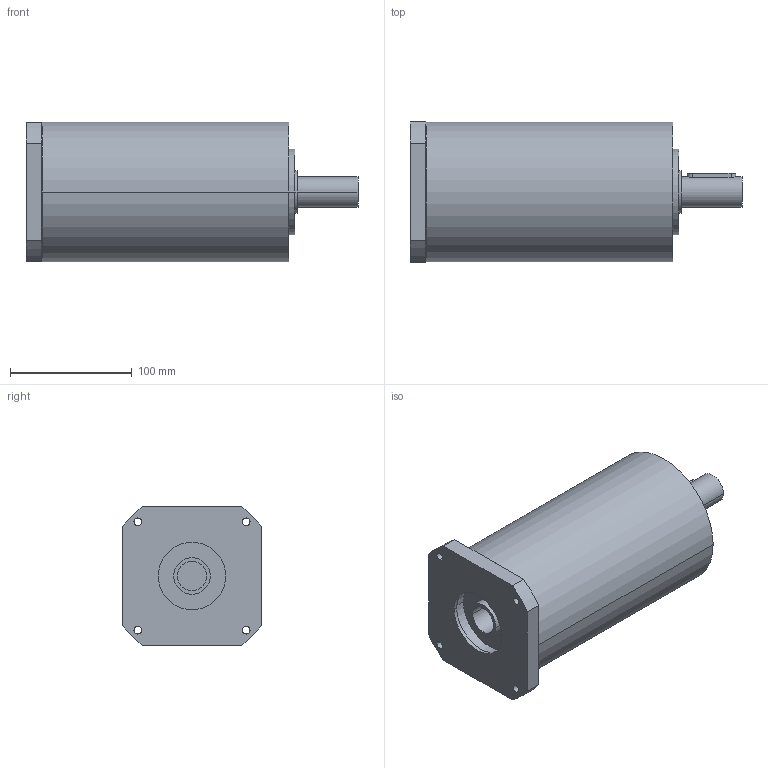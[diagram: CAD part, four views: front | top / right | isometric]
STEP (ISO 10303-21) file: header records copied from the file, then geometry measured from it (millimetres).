
FILE_DESCRIPTION(('CoCreate Modeling STEP Export'),'2;1');
FILE_NAME('GPR125_ig-48-64-80-100-140-196-245-343_25_B14_24_P01.stp','2014-08-26T14:22:23',(''),(''),'CoCreate Modeling STEP processor for AP214 (Solid Model)','CoCreate Modeling 16.00C 25-Feb-2009 (C) Parametric Technology GmbH','');
FILE_SCHEMA(('AUTOMOTIVE_DESIGN { 1 0 10303 214 1 1 1 1 }'));
Length unit declared in the file: millimetre
Products named in the file (2): GPR125_ig-48-64-80-100-140-196-245-343_25_B14_24_P01
Assembly tree (1 placements, depth 2):
  GPR125_ig-48-64-80-100-140-196-245-343_25_B14_24_P01
    GPR125_ig-48-64-80-100-140-196-245-343_25_B14_24_P01
Bounding box: 273 x 115 x 115 mm (x, y, z)
Volume: 2255855 mm3; surface area: 121736.4 mm2
Topology: 1 solids, 1 shells, 77 faces, 211 edges, 151 vertices
Faces by surface type: cylinder 48, plane 25, cone 4
Entity records: 2148 total; most frequent: ORIENTED_EDGE 418, CARTESIAN_POINT 398, DIRECTION 288, EDGE_CURVE 209, VERTEX_POINT 151, AXIS2_PLACEMENT_3D 109, EDGE_LOOP 102, FACE_OUTER_BOUND 77
